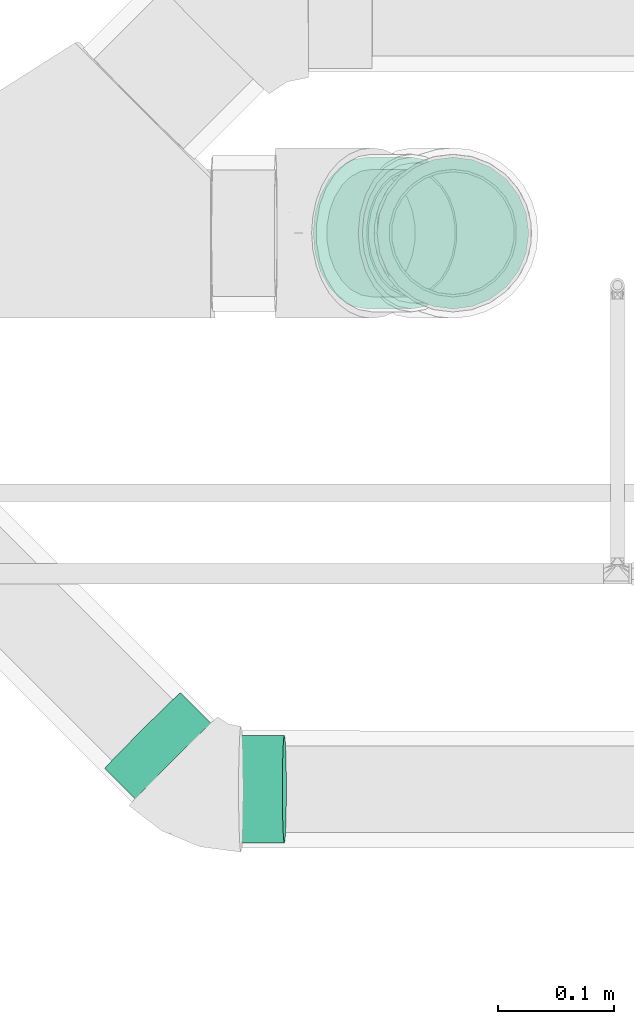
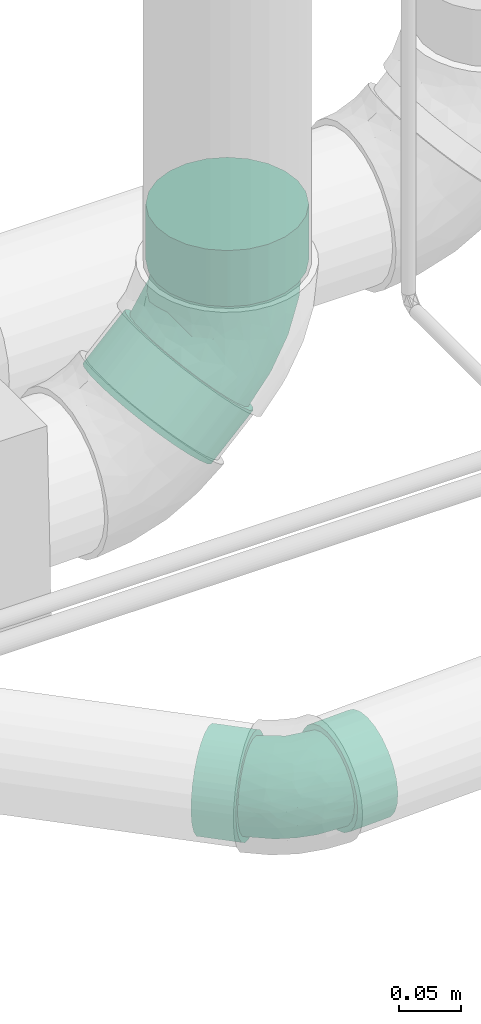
# One storey, part 130 of 156: 2 flow fittings.
"""IFC2X3 building model written with IfcOpenShell, lengths in millimetres."""

from ifc_helpers import new_model, entity, si_unit, converted_unit, derived_unit, direction, frame, origin_with_axes, place, context, subcontext, project, spatial, open_shell, surface_model, source, transform, mapped, type_object, element, save


model = new_model("IFC2X3")

# Units and contexts
model_context = context("Model", 3, precision=0.01, world=frame((0.0, 4.29681676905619e-09, 0.0)), true_north=direction((4.01073788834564e-13, 1.0)))
plan_context = context("Plan", 3, precision=0.01, world=frame((0.0, 4.29681676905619e-09, 0.0)), true_north=direction((4.01073788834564e-13, 1.0)))
body_context = subcontext(model_context, "Body", "Model", "MODEL_VIEW")
ifc_project = project(units=[converted_unit("PLANEANGLEUNIT", "DEGREE", entity("IfcPositiveLengthMeasure", 0.0174532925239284), si_unit("PLANEANGLEUNIT", "RADIAN"), dimensions=[0, 0, 0, 0, 0, 0, 0]), si_unit("AREAUNIT", "SQUARE_METRE"), si_unit("LENGTHUNIT", "METRE", prefix="MILLI"), si_unit("MASSUNIT", "GRAM", prefix="KILO"), si_unit("POWERUNIT", "WATT"), si_unit("PRESSUREUNIT", "PASCAL", prefix="KILO"), si_unit("FORCEUNIT", "NEWTON", prefix="KILO"), si_unit("ELECTRICVOLTAGEUNIT", "VOLT"), si_unit("ELECTRICCURRENTUNIT", "AMPERE"), si_unit("THERMODYNAMICTEMPERATUREUNIT", "DEGREE_CELSIUS"), si_unit("TIMEUNIT", "SECOND"), si_unit("VOLUMEUNIT", "CUBIC_METRE"), derived_unit("LINEARVELOCITYUNIT", [(si_unit("LENGTHUNIT", "METRE"), 1), (si_unit("TIMEUNIT", "SECOND"), -1)]), derived_unit("VOLUMETRICFLOWRATEUNIT", [(si_unit("VOLUMEUNIT", "CUBIC_METRE"), 1), (si_unit("TIMEUNIT", "SECOND"), -1)]), derived_unit("THERMALTRANSMITTANCEUNIT", [(si_unit("POWERUNIT", "WATT"), 1), (si_unit("THERMODYNAMICTEMPERATUREUNIT", "KELVIN"), -1), (si_unit("AREAUNIT", "SQUARE_METRE"), -1)]), derived_unit("SOUNDPRESSUREUNIT", [(si_unit("PRESSUREUNIT", "PASCAL"), 1)])], contexts=[model_context, plan_context])

# Site, building, storey
site_placement = place(None, frame((0.0, -4.29681676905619e-09, 0.0), z_axis=(0.0, 0.0, 1.0), x_axis=(1.0, 0.0, 0.0)))
site = spatial("IfcSite", under=ifc_project, at=site_placement, CompositionType="ELEMENT")
building_placement = place(site_placement, frame((0.0, 4.29681676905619e-09, 0.0), z_axis=(0.0, 0.0, 1.0), x_axis=(1.0, 0.0, 0.0)))
building = spatial("IfcBuilding", under=site, at=building_placement, Name="mc-building", CompositionType="ELEMENT")
storey_placement = place(building_placement, frame((0.0, 0.0, 205200.0), z_axis=(0.0, 0.0, 1.0), x_axis=(1.0, 0.0, 0.0)))
storey = spatial("IfcBuildingStorey", under=building, at=storey_placement, Name="Nivå D + 1,2 m", CompositionType="ELEMENT", Elevation=205200.0)

# Flow fittings
pipe_fitting_type = type_object("IfcPipeFittingType", Name="magi_sewer_bend_001", PredefinedType="BEND")
shared_shape_1 = source(origin_with_axes(), body_context, "Body", "SurfaceModel", [
    surface_model("IfcShellBasedSurfaceModel", [(-105.11984, -16.95265, -63.26814), (-105.11984, 32.75, -56.72466), (-105.11984, 16.95265, -63.26814), (-105.11984, -65.5, 0.0), (-105.11984, -63.26814, 16.95265), (-105.11984, 63.26814, -16.95265), (-105.11984, -56.72466, 32.75), (-105.11984, -46.3155, 46.3155), (-105.11984, -16.95265, 63.26814), (-105.11984, -32.75, 56.72466), (-105.11984, 46.3155, 46.3155), (-105.11984, 16.95265, 63.26814), (-105.11984, 32.75, 56.72466), (-50.11984, -16.95265, 63.26814), (-50.11984, 16.95265, 63.26814), (-50.11984, 0.0, 65.5), (-50.11984, -46.3155, 46.3155), (-50.11984, -32.75, 56.72466), (-50.11984, -56.72466, 32.75), (-50.11984, -63.26814, 16.95265), (-50.11984, 46.3155, 46.3155), (-50.11984, 32.75, 56.72466), (-50.11984, -16.95265, -63.26814), (-50.11984, -63.26814, -16.95265), (-50.11984, -56.72466, -32.75), (-50.11984, 63.26814, -16.95265), (-50.11984, 65.5, 0.0), (-50.11984, 56.72466, -32.75), (-105.11984, 56.72466, -32.75), (-50.11984, 16.95265, -63.26814), (-50.11984, 0.0, -65.5), (-50.11984, 46.3155, -46.3155), (-105.11984, 46.3155, -46.3155), (-105.11984, 65.5, 0.0), (-50.11984, 32.75, -56.72466), (-105.11984, 0.0, -65.5), (-50.11984, -32.75, -56.72466), (-50.11984, -46.3155, -46.3155), (-105.11984, -32.75, -56.72466), (-105.11984, -56.72466, -32.75), (-105.11984, -46.3155, -46.3155), (-105.11984, -63.26814, -16.95265), (-50.11984, -65.5, 0.0), (-105.11984, 0.0, 65.5), (-105.11984, 56.72466, 32.75), (-50.11984, 56.72466, 32.75), (-50.11984, 63.26814, 16.95265), (-105.11984, 63.26814, 16.95265), (86.31829, 62.34362, 63.26814), (97.4887, 51.17321, 56.72466), (107.08095, 41.58095, 46.3155), (107.08095, 41.58095, -46.3155), (119.06829, 29.59362, -16.95265), (114.44134, 34.22056, -32.75), (68.19008, 2.69008, 46.3155), (58.59783, 12.28233, 56.72466), (47.42741, 23.45275, 63.26814), (80.17741, -9.29725, -16.95265), (68.19008, 2.69008, -46.3155), (75.55048, -4.67032, -32.75), (23.45275, 47.42741, -63.26814), (62.34362, 86.31829, -63.26814), (35.44008, 35.44008, -65.5), (12.28233, 58.59783, -56.72466), (51.17321, 97.4887, -56.72466), (-9.29725, 80.17741, -16.95265), (-10.87541, 81.75557, 0.0), (29.59362, 119.06829, -16.95265), (2.69008, 68.19008, -46.3155), (41.58095, 107.08095, -46.3155), (74.33095, 74.33095, -65.5), (34.22056, 114.44134, -32.75), (-4.67032, 75.55048, -32.75), (28.01546, 120.64645, 0.0), (29.59362, 119.06829, 16.95265), (-9.29725, 80.17741, 16.95265), (-4.67032, 75.55048, 32.75), (2.69008, 68.19008, 46.3155), (34.22056, 114.44134, 32.75), (51.17321, 97.4887, 56.72466), (12.28233, 58.59783, 56.72466), (23.45275, 47.42741, 63.26814), (41.58095, 107.08095, 46.3155), (62.34362, 86.31829, 63.26814), (35.44008, 35.44008, 65.5), (74.33095, 74.33095, 65.5), (75.55048, -4.67032, 32.75), (114.44134, 34.22056, 32.75), (120.64645, 28.01546, 0.0), (119.06829, 29.59362, 16.95265), (80.17741, -9.29725, 16.95265), (81.75557, -10.87541, 0.0), (97.4887, 51.17321, -56.72466), (58.59783, 12.28233, -56.72466), (47.42741, 23.45275, -63.26814), (86.31829, 62.34362, -63.26814), (-50.11984, 58.43851, -15.65855), (-50.11984, 52.39454, -30.25), (-50.11984, 42.77996, -42.77996), (-50.11984, -60.5, 0.0), (-50.11984, 0.0, -60.5), (-50.11984, -58.43851, -15.65855), (-50.11984, -52.39454, -30.25), (-50.11984, -15.65855, 58.43851), (-50.11984, 0.0, 60.5), (-50.11984, -30.25, 52.39454), (-50.11984, 60.5, 0.0), (-50.11984, 58.43851, 15.65855), (35.44008, 35.44008, -60.5), (24.36781, 46.51235, -58.43851), (14.0501, 56.83006, -52.39454), (-5.88219, 76.76235, -15.65855), (5.19008, 65.69008, -42.77996), (-1.60845, 72.48861, -30.25), (72.48861, -1.60845, -30.25), (78.22004, -7.33988, 0.0), (76.76235, -5.88219, -15.65855), (5.19008, 65.69008, 42.77996), (-5.88219, 76.76235, 15.65855), (-1.60845, 72.48861, 30.25), (76.76235, -5.88219, 15.65855), (65.69008, 5.19008, 42.77996), (72.48861, -1.60845, 30.25), (15.40898, -37.20057, 33.71482), (-13.38469, -34.19321, 46.68416), (-19.53618, -46.27104, 35.42508), (-20.21421, -56.56285, 0.0), (-3.14418, -54.31554, 0.0), (-12.91334, -55.73755, 10.33096), (-50.11984, -42.77996, 42.77996), (46.53273, -18.9044, 35.42508), (-23.97238, -22.18485, 55.29389), (6.21199, -14.99708, 54.53161), (24.36781, 46.51235, 58.43851), (1.79579, 36.37132, 56.46814), (10.937, 28.63799, 59.62004), (-18.05654, -5.82509, 59.69848), (-5.75437, 13.89228, 60.2874), (-30.31328, 8.38356, 60.13285), (-50.11984, 42.77996, 42.77996), (-17.18515, 41.48861, 49.39252), (-26.68033, 50.73817, 38.17957), (56.83006, 14.0501, 52.39454), (46.51235, 24.36781, 58.43851), (32.63809, 1.26397, 55.29389), (-50.11984, 15.65855, 58.43851), (-50.11984, 30.25, 52.39454), (-23.24601, 25.1757, 56.55898), (-50.11984, -58.43851, 15.65855), (14.0501, 56.83006, 52.39454), (23.34807, -39.59646, 23.84351), (-10.84785, -52.34167, 21.0101), (18.78371, -45.3479, 13.14971), (-50.11984, -52.39454, 30.25), (-50.11984, 52.39454, 30.25), (-24.92328, 60.17012, 24.85601), (48.54351, -30.28129, 10.33096), (54.28958, -25.70237, 0.0), (-24.23293, 64.82746, 12.71177), (44.68174, -29.34056, 21.0101), (35.44008, 35.44008, 60.5), (16.88687, 8.64894, 59.69848), (33.64265, -14.71385, 46.68416), (-26.96749, 65.10529, 0.0), (-7.33988, 78.22004, 0.0), (10.1548, -24.51586, 48.24539), (18.74299, -45.24957, 0.0), (40.63016, -36.18361, 0.0), (-50.11984, -15.65855, -58.43851), (-18.05654, -5.82509, -59.69848), (-12.91334, -55.73755, -10.33096), (18.78371, -45.3479, -13.1497), (46.51235, 24.36781, -58.43851), (16.88687, 8.64894, -59.69848), (-26.98822, 24.44859, -56.46814), (-27.98374, 12.51649, -59.62004), (-50.11984, 15.65855, -58.43851), (-17.01146, 54.74315, -38.17957), (56.83006, 14.0501, -52.39454), (65.69008, 5.19008, -42.77996), (33.64265, -14.71385, -46.68416), (-24.92328, 60.17012, -24.85601), (44.68174, -29.34056, -21.0101), (-28.70466, 62.9752, -12.71176), (-1.3645, 34.23932, -56.55898), (-50.11984, 30.25, -52.39454), (-10.84785, -52.34167, -21.0101), (-17.18515, 41.48861, -49.39253), (-19.53618, -46.27104, -35.42508), (-50.11984, -42.77996, -42.77996), (-13.38469, -34.19321, -46.68416), (-50.11984, -30.25, -52.39454), (10.1548, -24.51586, -48.24539), (15.40898, -37.20057, -33.71482), (-23.97238, -22.18485, -55.29389), (32.63809, 1.26397, -55.29389), (6.21199, -14.99708, -54.53161), (48.54351, -30.28129, -10.33096), (15.50665, 27.3628, -60.13285), (11.48935, -44.50851, -23.84351), (46.53273, -18.9044, -35.42508), (-5.75437, 13.89228, -60.2874)], [open_shell([[[0, 1, 2]], [[3, 4, 5]], [[4, 6, 7]], [[8, 7, 9]], [[10, 11, 12]], [[13, 14, 15]], [[16, 13, 17]], [[16, 18, 19]], [[14, 20, 21]], [[22, 23, 24]], [[25, 5, 26]], [[27, 28, 25]], [[29, 30, 2]], [[31, 32, 27]], [[25, 28, 5]], [[5, 33, 26]], [[1, 34, 2]], [[1, 32, 31]], [[34, 29, 2]], [[32, 28, 27]], [[31, 34, 1]], [[30, 35, 2]], [[0, 22, 36]], [[37, 38, 36]], [[39, 24, 23]], [[37, 24, 40]], [[41, 23, 42]], [[22, 0, 35]], [[36, 38, 0]], [[37, 40, 38]], [[24, 39, 40]], [[41, 39, 23]], [[42, 3, 41]], [[22, 35, 30]], [[19, 4, 42]], [[18, 6, 19]], [[17, 9, 16]], [[16, 7, 18]], [[19, 6, 4]], [[4, 3, 42]], [[43, 8, 13]], [[8, 9, 17]], [[7, 16, 9]], [[7, 6, 18]], [[13, 8, 17]], [[13, 15, 43]], [[11, 14, 21]], [[20, 12, 21]], [[44, 45, 46]], [[20, 45, 10]], [[47, 46, 26]], [[14, 11, 43]], [[21, 12, 11]], [[20, 10, 12]], [[45, 44, 10]], [[47, 44, 46]], [[26, 33, 47]], [[14, 43, 15]], [[48, 49, 50]], [[51, 52, 53]], [[54, 55, 56]], [[57, 58, 59]], [[60, 61, 62]], [[63, 64, 60]], [[65, 66, 67]], [[68, 69, 63]], [[60, 64, 61]], [[61, 70, 62]], [[71, 72, 67]], [[71, 69, 68]], [[72, 65, 67]], [[69, 64, 63]], [[68, 72, 71]], [[66, 73, 67]], [[74, 75, 76]], [[77, 78, 76]], [[79, 80, 81]], [[77, 80, 82]], [[83, 81, 84]], [[75, 74, 73]], [[76, 78, 74]], [[77, 82, 78]], [[80, 79, 82]], [[83, 79, 81]], [[84, 85, 83]], [[75, 73, 66]], [[56, 48, 84]], [[55, 49, 56]], [[86, 87, 54]], [[54, 50, 55]], [[56, 49, 48]], [[48, 85, 84]], [[88, 89, 90]], [[89, 87, 86]], [[50, 54, 87]], [[50, 49, 55]], [[90, 89, 86]], [[90, 91, 88]], [[52, 57, 59]], [[58, 53, 59]], [[92, 93, 94]], [[58, 93, 51]], [[95, 94, 62]], [[57, 52, 88]], [[59, 53, 52]], [[58, 51, 53]], [[93, 92, 51]], [[95, 92, 94]], [[62, 70, 95]], [[57, 88, 91]], [[96, 97, 98]], [[99, 96, 100]], [[101, 99, 102]], [[103, 104, 105]], [[106, 96, 107]], [[108, 109, 110]], [[108, 110, 111]], [[112, 113, 111]], [[112, 111, 110]], [[114, 115, 116]], [[117, 118, 119]], [[120, 121, 122]], [[123, 124, 125]], [[126, 127, 128]], [[105, 129, 124]], [[122, 121, 130]], [[131, 124, 132]], [[125, 124, 129]], [[133, 134, 135]], [[103, 105, 131]], [[136, 137, 138]], [[104, 103, 136]], [[139, 140, 141]], [[142, 143, 144]], [[138, 145, 104]], [[146, 147, 140]], [[148, 126, 128]], [[149, 117, 140]], [[150, 151, 152]], [[140, 139, 146]], [[129, 153, 125]], [[154, 141, 155]], [[107, 154, 155]], [[120, 156, 157]], [[158, 106, 107]], [[159, 150, 152]], [[151, 128, 152]], [[146, 145, 147]], [[160, 135, 161]], [[121, 142, 162]], [[119, 118, 155]], [[161, 143, 160]], [[123, 125, 151]], [[121, 162, 130]], [[137, 135, 134]], [[162, 142, 144]], [[153, 151, 125]], [[156, 120, 159]], [[123, 130, 162]], [[138, 147, 145]], [[123, 150, 130]], [[107, 155, 158]], [[153, 148, 151]], [[163, 158, 164]], [[124, 165, 132]], [[118, 158, 155]], [[132, 161, 136]], [[119, 155, 141]], [[132, 144, 161]], [[119, 141, 117]], [[137, 136, 161]], [[133, 149, 134]], [[134, 140, 147]], [[131, 136, 103]], [[154, 139, 141]], [[159, 120, 122]], [[159, 122, 130]], [[165, 123, 162]], [[117, 141, 140]], [[140, 134, 149]], [[137, 134, 147]], [[124, 131, 105]], [[136, 131, 132]], [[161, 144, 143]], [[162, 144, 132]], [[148, 99, 126]], [[152, 127, 166]], [[148, 128, 151]], [[127, 152, 128]], [[156, 152, 167]], [[157, 156, 167]], [[157, 115, 120]], [[152, 156, 159]], [[161, 135, 137]], [[160, 133, 135]], [[136, 138, 104]], [[147, 138, 137]], [[123, 165, 124]], [[162, 132, 165]], [[164, 158, 118]], [[158, 163, 106]], [[130, 150, 159]], [[151, 150, 123]], [[167, 152, 166]], [[168, 100, 169]], [[127, 170, 171]], [[108, 172, 173]], [[174, 175, 176]], [[97, 177, 98]], [[178, 179, 180]], [[181, 177, 97]], [[114, 116, 182]], [[96, 183, 181]], [[110, 109, 184]], [[101, 170, 126]], [[185, 174, 176]], [[170, 101, 186]], [[112, 187, 177]], [[186, 102, 188]], [[188, 189, 190]], [[189, 191, 190]], [[192, 193, 190]], [[101, 102, 186]], [[189, 188, 102]], [[194, 191, 168]], [[195, 173, 172]], [[111, 113, 181]], [[196, 194, 169]], [[106, 163, 183]], [[193, 188, 190]], [[164, 111, 183]], [[196, 169, 173]], [[112, 110, 187]], [[181, 97, 96]], [[113, 177, 181]], [[194, 190, 191]], [[184, 187, 110]], [[175, 169, 100]], [[187, 184, 174]], [[98, 187, 185]], [[116, 157, 197]], [[198, 109, 108]], [[195, 172, 178]], [[199, 182, 171]], [[179, 200, 180]], [[196, 195, 180]], [[179, 114, 200]], [[201, 198, 173]], [[200, 193, 180]], [[201, 173, 169]], [[197, 157, 167]], [[198, 184, 109]], [[201, 175, 174]], [[170, 186, 171]], [[193, 199, 188]], [[180, 192, 196]], [[114, 182, 200]], [[111, 181, 183]], [[193, 200, 182]], [[113, 112, 177]], [[98, 177, 187]], [[187, 174, 185]], [[201, 174, 184]], [[169, 194, 168]], [[190, 194, 196]], [[180, 195, 178]], [[173, 195, 196]], [[126, 170, 127]], [[126, 99, 101]], [[199, 171, 186]], [[197, 171, 182]], [[171, 167, 166]], [[116, 115, 157]], [[171, 197, 167]], [[116, 197, 182]], [[169, 175, 201]], [[100, 176, 175]], [[173, 198, 108]], [[184, 198, 201]], [[193, 192, 180]], [[190, 196, 192]], [[106, 183, 96]], [[183, 163, 164]], [[188, 199, 186]], [[182, 199, 193]], [[127, 171, 166]], [[0, 38, 40]], [[0, 40, 41]], [[0, 41, 28]], [[41, 40, 39]], [[28, 41, 3]], [[0, 2, 35]], [[32, 1, 0]], [[0, 28, 32]], [[3, 5, 28]], [[5, 7, 47]], [[8, 43, 7]], [[47, 7, 43]], [[47, 10, 44]], [[33, 5, 47]], [[11, 10, 47]], [[43, 11, 47]], [[5, 4, 7]], [[13, 16, 14]], [[19, 14, 16]], [[20, 14, 46]], [[20, 46, 45]], [[14, 19, 46]], [[46, 25, 26]], [[46, 19, 25]], [[23, 34, 42]], [[37, 36, 22]], [[37, 22, 24]], [[30, 23, 22]], [[42, 31, 27]], [[27, 25, 42]], [[34, 30, 29]], [[34, 31, 42]], [[34, 23, 30]], [[42, 25, 19]], [[70, 61, 64]], [[89, 50, 87]], [[90, 57, 91]], [[56, 57, 54]], [[58, 57, 94]], [[58, 94, 93]], [[57, 56, 94]], [[94, 60, 62]], [[94, 56, 60]], [[75, 81, 80]], [[84, 68, 63]], [[63, 60, 84]], [[84, 60, 56]], [[176, 100, 96]], [[185, 176, 96]], [[185, 96, 98]], [[191, 189, 168]], [[189, 100, 168]], [[189, 102, 99]], [[189, 99, 100]], [[99, 148, 96]], [[107, 96, 148]], [[154, 107, 139]], [[146, 107, 148]], [[139, 107, 146]], [[145, 146, 148]], [[153, 129, 148]], [[105, 148, 129]], [[148, 105, 104]], [[104, 145, 148]], [[172, 179, 178]], [[115, 114, 179]], [[149, 118, 117]], [[121, 120, 142]], [[120, 133, 160]], [[83, 74, 78]], [[83, 78, 82]], [[74, 83, 69]], [[83, 82, 79]], [[70, 64, 83]], [[67, 69, 71]], [[67, 73, 74]], [[74, 69, 67]], [[83, 64, 69]], [[70, 83, 85]], [[95, 48, 50]], [[50, 89, 95]], [[88, 95, 89]], [[95, 51, 92]], [[95, 70, 48]], [[52, 51, 95]], [[88, 52, 95]], [[48, 70, 85]], [[86, 57, 90]], [[57, 86, 54]], [[81, 68, 84]], [[76, 75, 80]], [[76, 80, 77]], [[68, 81, 75]], [[75, 65, 72]], [[75, 72, 68]], [[66, 65, 75]], [[120, 172, 108]], [[115, 179, 120]], [[120, 179, 172]], [[108, 111, 120]], [[149, 164, 118]], [[149, 120, 111]], [[120, 149, 133]], [[120, 143, 142]], [[143, 120, 160]], [[149, 111, 164]]])]),
])
flow_fitting_1_placement = place(storey_placement, frame((328539.54392, 462607.68521, 4332.88055999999), z_axis=(0.000168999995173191, -0.999999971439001, -0.000168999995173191), x_axis=(0.707106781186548, 0.0, 0.707106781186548)))
element("IfcFlowFitting", 1, at=flow_fitting_1_placement, inside=storey, type_object=pipe_fitting_type, Name="magi_sewer_bend_001", context=body_context, shape_type="MappedRepresentation", body=[
    mapped(shared_shape_1, transform((0.0, 0.0, 0.0), scale=1.0)),
])
shared_shape_2 = source(origin_with_axes(), body_context, "Body", "SurfaceModel", [
    surface_model("IfcShellBasedSurfaceModel", [(-71.66907, -44.67407, -11.97038), (-71.66907, -11.97038, -44.67407), (-71.66907, -23.125, -40.05367), (-71.66907, -32.70369, -32.70369), (-71.66907, 0.0, -46.25), (-71.66907, -40.05367, -23.125), (-71.66907, -46.25, 0.0), (-71.66907, 11.97038, -44.67407), (-71.66907, 32.70369, -32.70369), (-71.66907, 23.125, -40.05367), (-71.66907, 44.67407, -11.97038), (-71.66907, 40.05367, -23.125), (-71.66907, -32.70369, 32.70369), (-71.66907, -44.67407, 11.97038), (-71.66907, -40.05367, 23.125), (-71.66907, 40.05367, 23.125), (-71.66907, -23.125, 40.05367), (-71.66907, -11.97038, 44.67407), (-71.66907, 0.0, 46.25), (-71.66907, 11.97038, 44.67407), (-71.66907, 44.67407, 11.97038), (-71.66907, 46.25, 0.0), (-71.66907, 23.125, 40.05367), (-71.66907, 32.70369, 32.70369), (-34.16907, 0.0, 46.25), (-34.16907, -11.97038, 44.67407), (-34.16907, -23.125, 40.05367), (-34.16907, -32.70369, 32.70369), (-34.16907, -40.05367, 23.125), (-34.16907, -44.67407, 11.97038), (-34.16907, 40.05367, 23.125), (-34.16907, -44.67407, -11.97038), (-34.16907, 23.125, 40.05367), (-34.16907, 32.70369, 32.70369), (-34.16907, 11.97038, 44.67407), (-34.16907, 44.67407, 11.97038), (-34.16907, 44.67407, -11.97038), (-34.16907, 46.25, 0.0), (-34.16907, -32.70369, -32.70369), (-34.16907, -40.05367, -23.125), (-34.16907, -23.125, -40.05367), (-34.16907, -11.97038, -44.67407), (-34.16907, 11.97038, -44.67407), (-34.16907, 32.70369, -32.70369), (-34.16907, 40.05367, -23.125), (-34.16907, 23.125, -40.05367), (-34.16907, 0.0, -46.25), (-34.16907, -46.25, 0.0), (42.21769, 59.13892, 44.67407), (19.09439, 82.26562, 11.97038), (22.36126, 78.99827, 23.125), (34.33076, 67.027, 40.05367), (27.55811, 73.80066, 32.70369), (17.98012, 83.38005, 0.0), (50.68141, 50.67396, 46.25), (19.09439, 82.26562, -11.97038), (27.55811, 73.80066, -32.70369), (22.36126, 78.99827, -23.125), (42.21769, 59.13892, -44.67407), (34.33076, 67.027, -40.05367), (59.14512, 42.209, 44.67407), (67.03205, 34.32091, 40.05367), (73.80471, 27.54726, 32.70369), (79.00156, 22.34965, 23.125), (82.26843, 19.0823, 11.97038), (83.38269, 17.96787, 0.0), (67.03205, 34.32091, -40.05367), (59.14512, 42.209, -44.67407), (50.68141, 50.67396, -46.25), (73.80471, 27.54726, -32.70369), (82.26843, 19.0823, -11.97038), (79.00156, 22.34965, -23.125), (55.74997, -7.43226, 11.97038), (55.74997, -7.43226, -11.97038), (56.86424, -8.54669, 0.0), (32.62667, 15.69444, 44.67407), (52.4831, -4.1649, 23.125), (47.28625, 1.0327, 32.70369), (40.5136, 7.80636, 40.05367), (40.5136, 7.80636, -40.05367), (47.28625, 1.0327, -32.70369), (52.4831, -4.1649, -23.125), (32.62667, 15.69444, -44.67407), (15.69924, 32.62436, -44.67407), (24.16296, 24.1594, -46.25), (15.69924, 32.62436, 44.67407), (-7.42406, 55.75106, 11.97038), (7.81231, 40.51245, 40.05367), (1.03965, 47.2861, 32.70369), (-4.15719, 52.48371, 23.125), (-7.42406, 55.75106, -11.97038), (1.03965, 47.2861, -32.70369), (7.81231, 40.51245, -40.05367), (-4.15719, 52.48371, -23.125), (-8.53833, 56.8655, 0.0), (24.16296, 24.1594, 46.25), (-34.16907, 10.67629, -39.84444), (-34.16907, 0.0, -41.25), (-34.16907, 35.72355, -20.625), (-34.16907, 20.625, -35.72355), (-34.16907, -10.67629, -39.84444), (-34.16907, 29.16816, -29.16816), (-34.16907, 39.84444, -10.67629), (-34.16907, -29.16816, -29.16816), (-34.16907, -35.72355, -20.625), (-34.16907, -20.625, -35.72355), (-34.16907, -39.84444, -10.67629), (-34.16907, -41.25, 0.0), (-34.16907, -39.84444, 10.67629), (-34.16907, 41.25, 0.0), (-34.16907, 35.72355, 20.625), (-34.16907, 39.84444, 10.67629), (-34.16907, 10.67629, 39.84444), (-34.16907, 20.625, 35.72355), (-34.16907, 29.16816, 29.16816), (-34.16907, -35.72355, 20.625), (-34.16907, -29.16816, 29.16816), (-34.16907, -10.67629, 39.84444), (-34.16907, -20.625, 35.72355), (-34.16907, 0.0, 41.25), (16.61424, 31.70923, -39.84444), (44.78644, 3.53289, -29.16816), (24.16296, 24.1594, -41.25), (3.53947, 44.78592, -29.16816), (9.57995, 38.74455, -35.72355), (-1.09555, 49.42162, -20.625), (-4.00925, 52.33575, -10.67629), (-1.09555, 49.42162, 20.625), (52.33516, -4.01694, 10.67629), (52.33516, -4.01694, -10.67629), (38.74596, 9.57425, -35.72355), (31.71167, 16.60957, -39.84444), (49.42146, -1.10282, -20.625), (53.32897, -5.0109, 0.0), (-5.00306, 53.3297, 0.0), (-4.00925, 52.33575, 10.67629), (3.53947, 44.78592, 29.16816), (9.57995, 38.74455, 35.72355), (16.61424, 31.70923, 39.84444), (44.78644, 3.53289, 29.16816), (49.42146, -1.10282, 20.625), (24.16296, 24.1594, 41.25), (31.71167, 16.60957, 39.84444), (38.74596, 9.57425, 35.72355), (10.50561, -25.36541, 22.98778), (-9.12379, -23.31372, 31.83025), (-13.31686, -31.54841, 24.15357), (-13.77882, -38.56583, 0.0), (-2.14314, -37.03411, 0.0), (-8.8024, -38.00312, 7.04409), (31.72359, -12.89399, 24.15357), (-16.34328, -15.12621, 37.70047), (4.23545, -10.22634, 37.18082), (1.22564, 24.79749, 38.50091), (7.45633, 19.52401, 40.64989), (-12.30874, -3.97172, 40.70354), (-3.92271, 9.47123, 41.10502), (-20.66624, 5.71596, 40.99965), (-11.71568, 28.28709, 33.67655), (-18.18775, 34.59423, 26.03143), (22.25235, 0.85896, 37.70047), (-15.84658, 17.16524, 38.56288), (15.91698, -26.99992, 16.25753), (-7.39441, -35.6878, 14.3253), (12.80639, -30.92059, 8.96648), (-16.99115, 41.02454, 16.94706), (33.09499, -20.65046, 7.04409), (37.01196, -17.52978, 0.0), (-16.5214, 44.19941, 8.667), (30.46225, -20.00869, 14.3253), (11.51246, 5.89431, 40.70354), (22.93604, -10.03548, 31.83025), (-18.38478, 44.38939, 0.0), (6.92322, -16.71587, 32.89541), (12.77877, -30.85389, 0.0), (27.70068, -24.67368, 0.0), (-12.30874, -3.97173, -40.70354), (-8.8024, -38.00312, -7.04409), (12.80639, -30.92059, -8.96648), (11.51246, 5.89431, -40.70354), (-18.39991, 16.66917, -38.50091), (-19.07736, 8.53454, -40.64989), (-11.5984, 37.32335, -26.03143), (22.93604, -10.03548, -31.83025), (-16.99116, 41.02454, -16.94706), (30.46225, -20.00868, -14.3253), (-19.56815, 42.93754, -8.667), (-0.93072, 23.34295, -38.56289), (-7.39441, -35.6878, -14.3253), (-11.71568, 28.28709, -33.67655), (-13.31686, -31.54841, -24.15357), (-9.12379, -23.31372, -31.83025), (6.92322, -16.71587, -32.89541), (10.50561, -25.36541, -22.98778), (-16.34328, -15.12621, -37.70047), (22.25235, 0.85896, -37.70047), (4.23545, -10.22634, -37.18082), (33.09499, -20.65046, -7.04409), (10.57281, 18.65425, -40.99965), (7.83459, -30.34741, -16.25752), (31.72359, -12.89399, -24.15357), (-3.92271, 9.47123, -41.10502)], [open_shell([[[0, 1, 2]], [[0, 2, 3]], [[1, 0, 4]], [[0, 3, 5]], [[4, 0, 6]], [[7, 8, 9]], [[8, 7, 4]], [[8, 10, 11]], [[10, 8, 4]], [[4, 6, 10]], [[6, 12, 10]], [[13, 14, 12]], [[10, 12, 15]], [[16, 17, 18]], [[16, 18, 12]], [[19, 12, 18]], [[10, 20, 21]], [[15, 20, 10]], [[15, 22, 23]], [[22, 15, 19]], [[12, 19, 15]], [[6, 13, 12]], [[24, 25, 26]], [[24, 26, 27]], [[27, 28, 29]], [[24, 27, 30]], [[27, 31, 30]], [[32, 30, 33]], [[30, 32, 34]], [[35, 36, 37]], [[30, 34, 24]], [[35, 30, 36]], [[27, 29, 31]], [[36, 30, 31]], [[38, 31, 39]], [[40, 41, 31]], [[40, 31, 38]], [[42, 31, 41]], [[36, 43, 44]], [[36, 31, 43]], [[43, 42, 45]], [[31, 42, 43]], [[41, 46, 42]], [[31, 29, 47]], [[36, 10, 37]], [[44, 11, 36]], [[9, 43, 45]], [[44, 43, 8]], [[7, 45, 42]], [[36, 11, 10]], [[10, 21, 37]], [[7, 9, 45]], [[8, 43, 9]], [[8, 11, 44]], [[4, 7, 42]], [[42, 46, 4]], [[46, 41, 1]], [[5, 39, 31]], [[39, 3, 38]], [[0, 31, 47]], [[1, 40, 2]], [[40, 1, 41]], [[40, 38, 2]], [[38, 3, 2]], [[39, 5, 3]], [[0, 5, 31]], [[47, 6, 0]], [[46, 1, 4]], [[29, 13, 47]], [[28, 14, 29]], [[16, 27, 26]], [[28, 27, 12]], [[17, 26, 25]], [[29, 14, 13]], [[13, 6, 47]], [[17, 16, 26]], [[12, 27, 16]], [[12, 14, 28]], [[18, 17, 25]], [[25, 24, 18]], [[33, 22, 32]], [[35, 15, 30]], [[33, 30, 23]], [[20, 35, 37]], [[32, 19, 34]], [[32, 22, 19]], [[19, 18, 34]], [[33, 23, 22]], [[30, 15, 23]], [[20, 15, 35]], [[37, 21, 20]], [[34, 18, 24]], [[48, 49, 50]], [[51, 50, 52]], [[49, 48, 53]], [[48, 50, 51]], [[53, 48, 54]], [[55, 56, 57]], [[56, 55, 53]], [[56, 58, 59]], [[58, 56, 53]], [[53, 54, 58]], [[54, 60, 58]], [[60, 61, 62]], [[60, 62, 63]], [[63, 64, 65]], [[63, 66, 58]], [[66, 63, 65]], [[58, 67, 68]], [[66, 67, 58]], [[69, 70, 71]], [[69, 66, 65]], [[70, 69, 65]], [[58, 60, 63]], [[72, 73, 74]], [[75, 72, 76]], [[77, 78, 75]], [[77, 75, 76]], [[79, 72, 75]], [[73, 80, 81]], [[80, 73, 79]], [[82, 83, 84]], [[79, 73, 72]], [[82, 79, 83]], [[79, 75, 85]], [[83, 79, 85]], [[86, 85, 87]], [[88, 89, 86]], [[88, 86, 87]], [[90, 85, 86]], [[83, 91, 92]], [[83, 85, 91]], [[91, 90, 93]], [[85, 90, 91]], [[86, 94, 90]], [[85, 75, 95]], [[83, 58, 84]], [[92, 59, 83]], [[57, 91, 93]], [[92, 91, 56]], [[55, 93, 90]], [[83, 59, 58]], [[58, 68, 84]], [[55, 57, 93]], [[56, 91, 57]], [[56, 59, 92]], [[53, 55, 90]], [[90, 94, 53]], [[94, 86, 49]], [[51, 87, 85]], [[87, 52, 88]], [[48, 85, 95]], [[49, 89, 50]], [[89, 49, 86]], [[89, 88, 50]], [[88, 52, 50]], [[87, 51, 52]], [[48, 51, 85]], [[95, 54, 48]], [[94, 49, 53]], [[75, 60, 95]], [[78, 61, 75]], [[63, 77, 76]], [[78, 77, 62]], [[64, 76, 72]], [[75, 61, 60]], [[60, 54, 95]], [[64, 63, 76]], [[62, 77, 63]], [[62, 61, 78]], [[65, 64, 72]], [[72, 74, 65]], [[80, 71, 81]], [[82, 66, 79]], [[80, 79, 69]], [[67, 82, 84]], [[81, 70, 73]], [[81, 71, 70]], [[70, 65, 73]], [[80, 69, 71]], [[79, 66, 69]], [[67, 66, 82]], [[84, 68, 67]], [[73, 65, 74]], [[96, 97, 98]], [[99, 96, 98]], [[100, 98, 97]], [[101, 99, 98]], [[102, 98, 100]], [[103, 104, 105]], [[100, 105, 104]], [[104, 106, 100]], [[106, 102, 100]], [[107, 108, 106]], [[109, 102, 106]], [[110, 111, 109]], [[108, 110, 106]], [[112, 113, 114]], [[108, 114, 110]], [[114, 108, 112]], [[115, 116, 108]], [[117, 108, 116]], [[118, 117, 116]], [[117, 112, 108]], [[117, 119, 112]], [[109, 106, 110]], [[120, 121, 122]], [[123, 120, 124]], [[123, 125, 126]], [[120, 123, 127]], [[128, 129, 120]], [[122, 130, 131]], [[122, 121, 130]], [[121, 129, 132]], [[120, 129, 121]], [[129, 128, 133]], [[126, 134, 123]], [[134, 135, 127]], [[120, 127, 128]], [[136, 137, 138]], [[136, 138, 127]], [[128, 127, 138]], [[128, 139, 140]], [[139, 128, 141]], [[139, 142, 143]], [[142, 139, 141]], [[128, 138, 141]], [[127, 123, 134]], [[144, 145, 146]], [[147, 148, 149]], [[118, 116, 145]], [[140, 139, 150]], [[151, 145, 152]], [[146, 145, 116]], [[138, 153, 154]], [[117, 118, 151]], [[155, 156, 157]], [[119, 117, 155]], [[114, 158, 159]], [[143, 142, 160]], [[157, 112, 119]], [[113, 161, 158]], [[108, 147, 149]], [[137, 136, 158]], [[162, 163, 164]], [[158, 114, 113]], [[116, 115, 146]], [[110, 159, 165]], [[111, 110, 165]], [[128, 166, 167]], [[168, 109, 111]], [[169, 162, 164]], [[163, 149, 164]], [[113, 112, 161]], [[141, 154, 170]], [[139, 143, 171]], [[127, 135, 165]], [[170, 142, 141]], [[144, 146, 163]], [[139, 171, 150]], [[156, 154, 153]], [[171, 143, 160]], [[115, 163, 146]], [[166, 128, 169]], [[144, 150, 171]], [[157, 161, 112]], [[144, 162, 150]], [[111, 165, 168]], [[115, 108, 163]], [[172, 168, 134]], [[145, 173, 152]], [[135, 168, 165]], [[152, 170, 155]], [[127, 165, 159]], [[152, 160, 170]], [[127, 159, 136]], [[156, 155, 170]], [[138, 137, 153]], [[153, 158, 161]], [[151, 155, 117]], [[110, 114, 159]], [[169, 128, 140]], [[169, 140, 150]], [[173, 144, 171]], [[136, 159, 158]], [[158, 153, 137]], [[156, 153, 161]], [[145, 151, 118]], [[155, 151, 152]], [[170, 160, 142]], [[171, 160, 152]], [[108, 107, 147]], [[164, 148, 174]], [[108, 149, 163]], [[148, 164, 149]], [[166, 164, 175]], [[167, 166, 175]], [[167, 133, 128]], [[164, 166, 169]], [[170, 154, 156]], [[141, 138, 154]], [[155, 157, 119]], [[161, 157, 156]], [[144, 173, 145]], [[171, 152, 173]], [[134, 168, 135]], [[168, 172, 109]], [[150, 162, 169]], [[163, 162, 144]], [[175, 164, 174]], [[100, 97, 176]], [[148, 177, 178]], [[122, 131, 179]], [[180, 181, 96]], [[98, 182, 101]], [[130, 121, 183]], [[184, 182, 98]], [[132, 129, 185]], [[102, 186, 184]], [[124, 120, 187]], [[106, 177, 147]], [[99, 180, 96]], [[177, 106, 188]], [[123, 189, 182]], [[188, 104, 190]], [[190, 103, 191]], [[103, 105, 191]], [[192, 193, 191]], [[106, 104, 188]], [[103, 190, 104]], [[194, 105, 100]], [[195, 179, 131]], [[126, 125, 184]], [[196, 194, 176]], [[109, 172, 186]], [[193, 190, 191]], [[134, 126, 186]], [[196, 176, 179]], [[123, 124, 189]], [[184, 98, 102]], [[125, 182, 184]], [[194, 191, 105]], [[187, 189, 124]], [[181, 176, 97]], [[189, 187, 180]], [[101, 189, 99]], [[129, 167, 197]], [[198, 120, 122]], [[195, 131, 130]], [[199, 185, 178]], [[121, 200, 183]], [[196, 195, 183]], [[121, 132, 200]], [[201, 198, 179]], [[200, 193, 183]], [[201, 179, 176]], [[197, 167, 175]], [[198, 187, 120]], [[201, 181, 180]], [[177, 188, 178]], [[193, 199, 190]], [[183, 192, 196]], [[132, 185, 200]], [[126, 184, 186]], [[193, 200, 185]], [[125, 123, 182]], [[101, 182, 189]], [[189, 180, 99]], [[201, 180, 187]], [[176, 194, 100]], [[191, 194, 196]], [[183, 195, 130]], [[179, 195, 196]], [[147, 177, 148]], [[147, 107, 106]], [[199, 178, 188]], [[197, 178, 185]], [[178, 175, 174]], [[129, 133, 167]], [[178, 197, 175]], [[129, 197, 185]], [[176, 181, 201]], [[97, 96, 181]], [[179, 198, 122]], [[187, 198, 201]], [[193, 192, 183]], [[191, 196, 192]], [[109, 186, 102]], [[186, 172, 134]], [[190, 199, 188]], [[185, 199, 193]], [[148, 178, 174]]])]),
])
flow_fitting_2_placement = place(storey_placement, frame((328322.45308, 462127.68806, 4228.44283000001), z_axis=(-0.037486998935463, -0.014004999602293, 0.999198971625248), x_axis=(0.707009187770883, -0.70700915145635, 0.0166152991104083)))
element("IfcFlowFitting", 2, at=flow_fitting_2_placement, inside=storey, type_object=pipe_fitting_type, Name="magi_sewer_bend_001", context=body_context, shape_type="MappedRepresentation", body=[
    mapped(shared_shape_2, transform((0.0, 0.0, 0.0), scale=1.0)),
])

save(model, "model.ifc")
